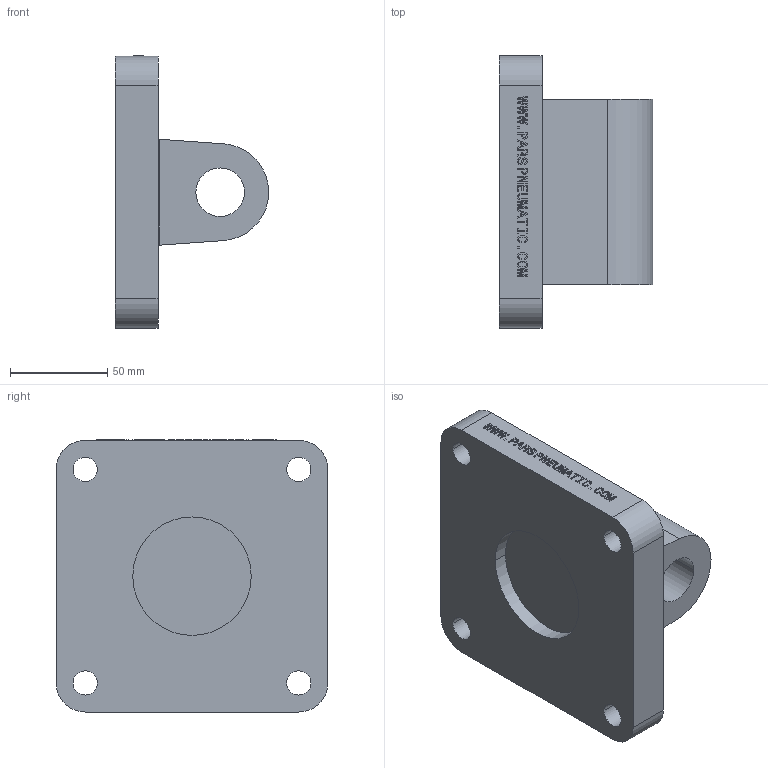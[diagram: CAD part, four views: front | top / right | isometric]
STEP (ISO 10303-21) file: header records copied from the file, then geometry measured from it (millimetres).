
FILE_DESCRIPTION(('CATIA V5 STEP Exchange'),'2;1');
FILE_NAME('D:\stp file for catalog\BAST-CA\CA 125.stp','2018-06-13T06:02:39+00:00',('none'),('none'),'CATIA Version 5-6 Release 2016','CATIA V5 STEP AP203','none');
FILE_SCHEMA(('CONFIG_CONTROL_DESIGN'));
Length unit declared in the file: millimetre
Products named in the file (1): PNC-CA 125-01
Bounding box: 79 x 140 x 140.2 mm (x, y, z)
Volume: 593537.8 mm3; surface area: 75753.7 mm2
Topology: 1 solids, 1 shells, 470 faces, 1305 edges, 870 vertices
Faces by surface type: plane 441, cylinder 29
Entity records: 14231 total; most frequent: ORIENTED_EDGE 2610, CARTESIAN_POINT 2567, DIRECTION 2015, EDGE_CURVE 1305, VECTOR 1247, LINE 1247, VERTEX_POINT 870, EDGE_LOOP 513
